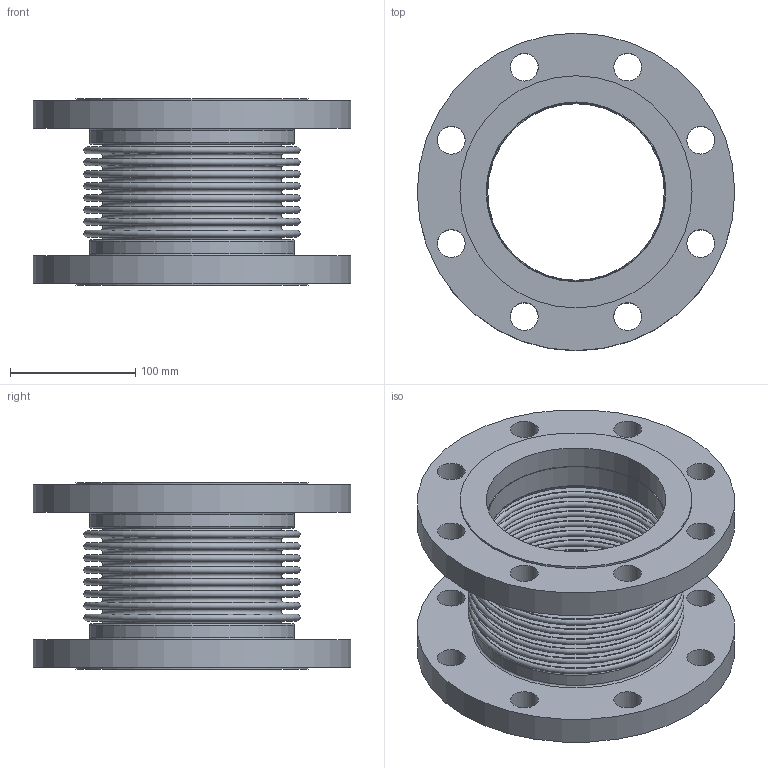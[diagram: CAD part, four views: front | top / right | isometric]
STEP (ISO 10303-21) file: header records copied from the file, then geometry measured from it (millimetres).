
FILE_DESCRIPTION(/* description */ ('EXPANSION JOINT,SINGLE, FLANGED ENDS,5 INCH NOMINAL','CAx-IF Rec.Pracs.---Representation and Presentation of Product Manufacturing Information (PMI)---4.0---2014-10-13'),/* implementation_level */ '2;1');
FILE_NAME(/* name */ 'US-05-8-85S-FLANGED ENDS.stp',/* time_stamp */ '2026-07-31T18:03:36-05:00',/* author */ ('Guadalupe'),/* organization */ (''),/* preprocessor_version */ 'ST-DEVELOPER v20.1',/* originating_system */ 'Autodesk Inventor 2026',/* authorisation */ '');
FILE_SCHEMA (('AP242_MANAGED_MODEL_BASED_3D_ENGINEERING_MIM_LF { 1 0 10303 442 2 1 4 }'));
Length unit declared in the file: inch
Products named in the file (3): 05-85S; 05-85S-02; 05-85S-01
Assembly tree (3 placements, depth 2):
  05-85S
    05-85S-02  x2
    05-85S-01
Bounding box: 254 x 254 x 149.35 mm (x, y, z)
Volume: 1652270.7 mm3; surface area: 552270 mm2
Topology: 5 solids, 5 shells, 112 faces, 198 edges, 132 vertices
Faces by surface type: plane 46, torus 38, cylinder 28
Full cylindrical faces by diameter (mm): 22.225 x16, 141.3 x2, 142.519 x2, 143.764 x2, 163.576 x2, 185.674 x2, 254 x2
Entity records: 2558 total; most frequent: DIRECTION 522, CARTESIAN_POINT 377, ORIENTED_EDGE 312, AXIS2_PLACEMENT_3D 253, EDGE_CURVE 156, EDGE_LOOP 152, CIRCLE 140, VERTEX_POINT 104
